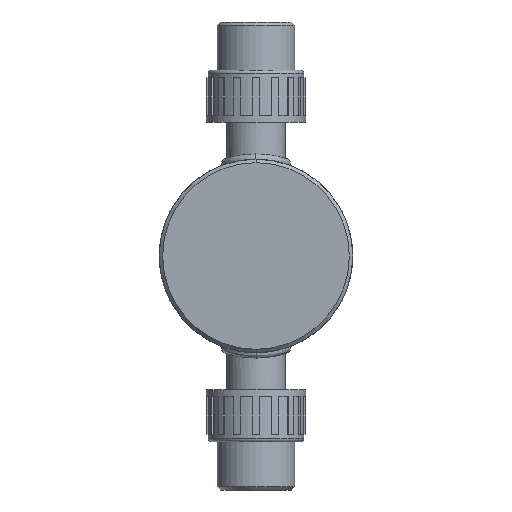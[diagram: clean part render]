
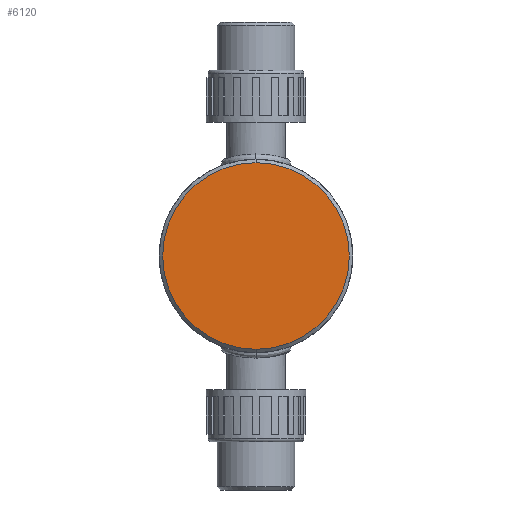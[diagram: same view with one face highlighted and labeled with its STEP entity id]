
A CAD part, front view. The second image highlights one B-rep face of the part: STEP entity #6120.
In plain terms, the highlighted planar face has unit normal (0, -1, 0).
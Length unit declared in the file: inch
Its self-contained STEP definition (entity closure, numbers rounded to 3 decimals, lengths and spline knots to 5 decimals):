
#1481 = AXIS2_PLACEMENT_3D ( 'NONE', #8161, #2840, #9060 ) ;
#1801 = CARTESIAN_POINT ( 'NONE',  ( 0., 0., 0. ) ) ;
#1895 = DIRECTION ( 'NONE',  ( 0., -1., 0. ) ) ;
#1955 = PLANE ( 'NONE',  #1481 ) ;
#2063 = CIRCLE ( 'NONE', #10434, 1.663 ) ;
#2175 = CARTESIAN_POINT ( 'NONE',  ( 0., 0., 1.663 ) ) ;
#2684 = DIRECTION ( 'NONE',  ( 0., 0., 1. ) ) ;
#2840 = DIRECTION ( 'NONE',  ( 0., 1., 0. ) ) ;
#3930 = EDGE_CURVE ( 'NONE', #9154, #7436, #2063, .T. ) ;
#4915 = ORIENTED_EDGE ( 'NONE', *, *, #3930, .T. ) ;
#5600 = EDGE_LOOP ( 'NONE', ( #4915, #9481 ) ) ;
#6120 = ADVANCED_FACE ( 'NONE', ( #8911 ), #1955, .F. ) ;
#7025 = CARTESIAN_POINT ( 'NONE',  ( 0., 0., -1.663 ) ) ;
#7212 = CARTESIAN_POINT ( 'NONE',  ( 0., 0., 0. ) ) ;
#7436 = VERTEX_POINT ( 'NONE', #7025 ) ;
#8007 = DIRECTION ( 'NONE',  ( 0., -1., 0. ) ) ;
#8116 = DIRECTION ( 'NONE',  ( 0., 0., 1. ) ) ;
#8161 = CARTESIAN_POINT ( 'NONE',  ( 0., 0., 0. ) ) ;
#8911 = FACE_OUTER_BOUND ( 'NONE', #5600, .T. ) ;
#9060 = DIRECTION ( 'NONE',  ( 0., 0., 1. ) ) ;
#9154 = VERTEX_POINT ( 'NONE', #2175 ) ;
#9481 = ORIENTED_EDGE ( 'NONE', *, *, #10843, .T. ) ;
#9568 = AXIS2_PLACEMENT_3D ( 'NONE', #7212, #1895, #8116 ) ;
#10434 = AXIS2_PLACEMENT_3D ( 'NONE', #1801, #8007, #2684 ) ;
#10843 = EDGE_CURVE ( 'NONE', #7436, #9154, #10895, .T. ) ;
#10895 = CIRCLE ( 'NONE', #9568, 1.663 ) ;
